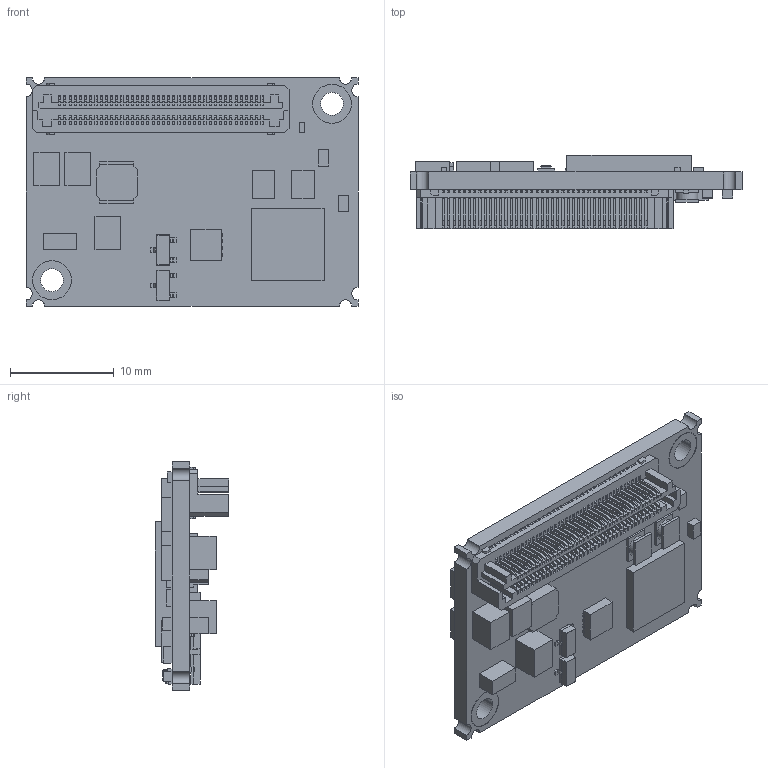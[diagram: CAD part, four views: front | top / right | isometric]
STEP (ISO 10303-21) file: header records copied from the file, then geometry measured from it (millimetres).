
FILE_DESCRIPTION((''),'2;1');
FILE_NAME('951711_EPOS4_MICRO_24-1_5_CAN','2026-06-17T09:11:47',('MMAGPAHU'),(''),'CREO PARAMETRIC BY PTC INC, 2022484','CREO PARAMETRIC BY PTC INC, 2022484','');
FILE_SCHEMA(('CONFIG_CONTROL_DESIGN','SHAPE_APPEARANCE_LAYERS_GROUPS'));
Products named in the file (1): 951711_EPOS4_MICRO_24-1_5_CAN
Bounding box: 32 x 7.05 x 22 mm (x, y, z)
Volume: 1903.7 mm3; surface area: 2778.9 mm2
Topology: 1 solids, 1 shells, 2496 faces, 6871 edges, 4408 vertices
Faces by surface type: plane 2112, cylinder 352, sphere 28, cone 4
Entity records: 77975 total; most frequent: CARTESIAN_POINT 14051, ORIENTED_EDGE 13714, DIRECTION 12593, EDGE_CURVE 6857, VECTOR 5977, LINE 5977, VERTEX_POINT 4408, AXIS2_PLACEMENT_3D 3308
